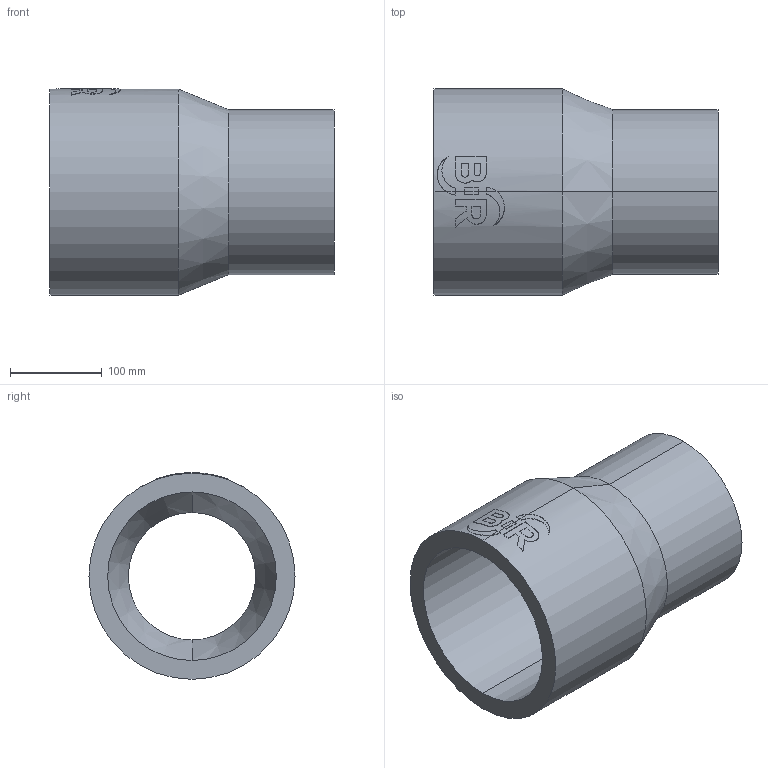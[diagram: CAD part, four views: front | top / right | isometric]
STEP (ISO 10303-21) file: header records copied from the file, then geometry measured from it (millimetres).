
FILE_DESCRIPTION (( 'STEP AP214' ), '1' );
FILE_NAME ('2323201815.STEP', '2018-07-20T10:08:58', ( '' ), ( '' ), 'SwSTEP 2.0', 'SolidWorks 2017', '' );
FILE_SCHEMA (( 'AUTOMOTIVE_DESIGN' ));
Length unit declared in the file: millimetre
Products named in the file (1): 2323201815
Bounding box: 310 x 225 x 225.46 mm (x, y, z)
Volume: 3716779.2 mm3; surface area: 386269.9 mm2
Topology: 1 solids, 1 shells, 63 faces, 160 edges, 104 vertices
Faces by surface type: cylinder 31, plane 28, cone 4
Entity records: 3325 total; most frequent: CARTESIAN_POINT 1116, ORIENTED_EDGE 320, DIRECTION 296, EDGE_CURVE 160, AXIS2_PLACEMENT_3D 112, VERTEX_POINT 104, LINE 72, VECTOR 72
